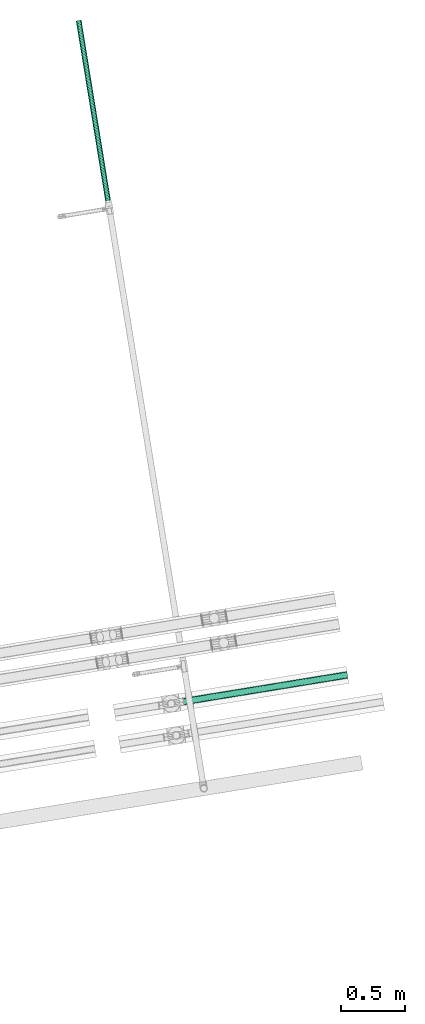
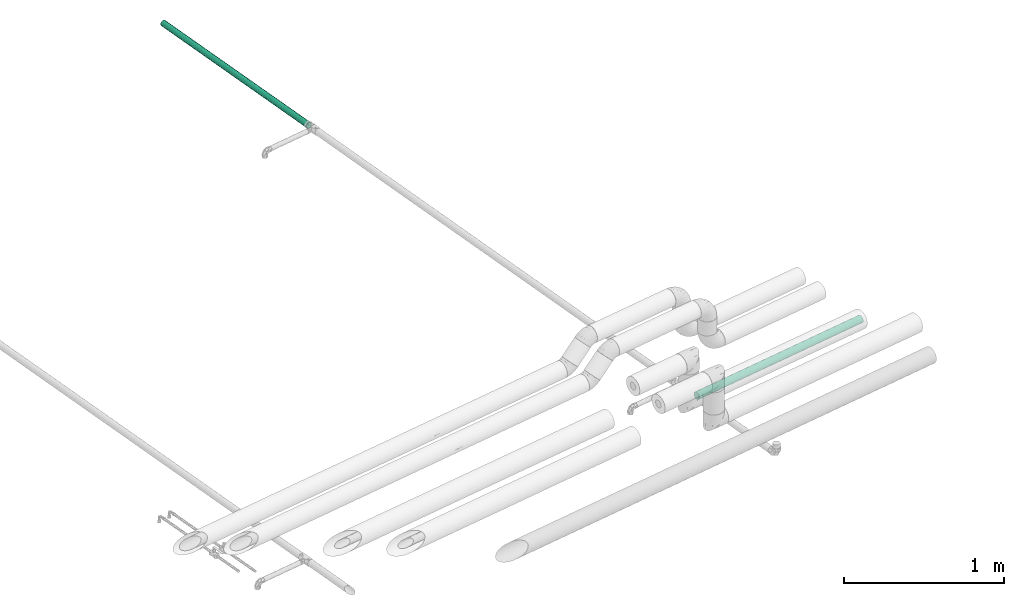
# One storey, part 53 of 56: 2 flow segments.
"""IFC2X3 building model written with IfcOpenShell, lengths in millimetres."""

from ifc_helpers import new_model, entity, si_unit, converted_unit, derived_unit, direction, frame, origin, origin_with_axes, place, context, subcontext, project, spatial, faceted_brep, material, type_object, element, save


model = new_model("IFC2X3")

# Units and contexts
model_context = context("Model", 3, precision=0.01, world=origin(), true_north=direction((6.12323399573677e-17, 1.0)))
plan_context = context("Plan", 3, precision=1e-05, world=origin_with_axes())
body_context = subcontext(model_context, "Body", "Model", "MODEL_VIEW")
ifc_project = project(units=[converted_unit("PLANEANGLEUNIT", "DEGREE", entity("IfcPositiveLengthMeasure", 0.0174532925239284), si_unit("PLANEANGLEUNIT", "RADIAN"), dimensions=[0, 0, 0, 0, 0, 0, 0]), si_unit("AREAUNIT", "SQUARE_METRE"), si_unit("LENGTHUNIT", "METRE", prefix="MILLI"), si_unit("MASSUNIT", "GRAM", prefix="KILO"), si_unit("POWERUNIT", "WATT"), si_unit("PRESSUREUNIT", "PASCAL", prefix="KILO"), si_unit("FORCEUNIT", "NEWTON", prefix="KILO"), si_unit("ELECTRICVOLTAGEUNIT", "VOLT"), si_unit("ELECTRICCURRENTUNIT", "AMPERE"), si_unit("THERMODYNAMICTEMPERATUREUNIT", "DEGREE_CELSIUS"), si_unit("TIMEUNIT", "SECOND"), si_unit("VOLUMEUNIT", "CUBIC_METRE"), derived_unit("LINEARVELOCITYUNIT", [(si_unit("LENGTHUNIT", "METRE"), 1), (si_unit("TIMEUNIT", "SECOND"), -1)]), derived_unit("VOLUMETRICFLOWRATEUNIT", [(si_unit("VOLUMEUNIT", "CUBIC_METRE"), 1), (si_unit("TIMEUNIT", "SECOND"), -1)]), derived_unit("THERMALTRANSMITTANCEUNIT", [(si_unit("POWERUNIT", "WATT"), 1), (si_unit("THERMODYNAMICTEMPERATUREUNIT", "KELVIN"), -1), (si_unit("AREAUNIT", "SQUARE_METRE"), -1)]), derived_unit("SOUNDPRESSUREUNIT", [(si_unit("PRESSUREUNIT", "PASCAL"), 1)])], contexts=[model_context, plan_context])

# Site, building, storey
site_placement = place(None, frame((-3.09682673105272e-06, 1.93776733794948e-05, 0.0), z_axis=(0.0, 0.0, 1.0), x_axis=(-0.160806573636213, 0.986985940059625, 0.0)))
site = spatial("IfcSite", under=ifc_project, at=site_placement, Name="Default", CompositionType="ELEMENT")
building_placement = place(site_placement, frame((0.0, 0.0, 0.0), z_axis=(0.0, 0.0, 1.0), x_axis=(1.0, -2.77555756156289e-17, 0.0)))
building = spatial("IfcBuilding", under=site, at=building_placement, Name="Bygning (endres i Project Information)", CompositionType="ELEMENT")
storey_placement = place(building_placement, frame((0.0, 0.0, 51360.0000000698), z_axis=(0.0, 0.0, 1.0), x_axis=(1.0, -2.77555756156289e-17, 0.0)))
storey = spatial("IfcBuildingStorey", under=building, at=storey_placement, Name="H01-Nivå D+0,36", CompositionType="ELEMENT", Elevation=51360.0000000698)

# Flow segments
ifc_material_1 = material(Name="3320.001")
pipe_segment_type_1 = type_object("IfcPipeSegmentType", Name="Pipe Types:Stålrør sveist og gjenget", PredefinedType="NOTDEFINED", material=ifc_material_1)
flow_segment_1_placement = place(storey_placement, frame((0.0, 0.0, 0.0), z_axis=(0.0, 0.0, 1.0), x_axis=(1.0, -2.77555756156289e-17, 0.0)))
element("IfcFlowSegment", 1, at=flow_segment_1_placement, inside=storey, type_object=pipe_segment_type_1, Name="Pipe Types:Stålrør sveist og gjenget", ObjectType="Pipe Types:Stålrør sveist og gjenget", context=body_context, shape_type="Brep", body=[
    faceted_brep([(1016638.36762345, -395316.02718765, 3196.31865849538), (1016638.36762345, -395315.705112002, 3200.0), (1015201.53557438, -395315.705112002, 3200.0), (1015201.53557438, -395316.02718765, 3196.31865849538), (1016638.36762345, -395316.02718765, 3203.68134150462), (1015201.53557438, -395316.02718765, 3203.68134150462), (1016638.36762345, -395316.983628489, 3207.25082731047), (1015201.53557438, -395316.983628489, 3207.25082731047), (1016638.36762345, -395318.545373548, 3210.60000039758), (1015201.53557438, -395318.545373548, 3210.60000039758), (1016638.36762345, -395320.664969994, 3213.62709783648), (1015201.53557438, -395320.664969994, 3213.62709783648), (1016638.36762345, -395323.278014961, 3216.24014280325), (1015201.53557438, -395323.278014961, 3216.24014280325), (1016638.36762345, -395326.3051124, 3218.35973924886), (1015201.53557438, -395326.3051124, 3218.35973924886), (1016638.36762345, -395329.654285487, 3219.92148430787), (1015201.53557438, -395329.654285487, 3219.92148430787), (1016638.36762345, -395333.223771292, 3220.87792514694), (1015201.53557438, -395333.223771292, 3220.87792514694), (1016638.36762345, -395336.905112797, 3221.20000079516), (1015201.53557438, -395336.905112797, 3221.20000079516), (1016638.36762345, -395340.586454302, 3220.87792514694), (1015201.53557438, -395340.586454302, 3220.87792514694), (1016638.36762345, -395344.155940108, 3219.92148430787), (1015201.53557438, -395344.155940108, 3219.92148430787), (1016638.36762345, -395347.505113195, 3218.35973924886), (1015201.53557438, -395347.505113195, 3218.35973924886), (1016638.36762345, -395350.532210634, 3216.24014280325), (1015201.53557438, -395350.532210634, 3216.24014280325), (1016638.36762345, -395353.1452556, 3213.62709783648), (1015201.53557438, -395353.1452556, 3213.62709783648), (1016638.36762345, -395355.264852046, 3210.60000039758), (1015201.53557438, -395355.264852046, 3210.60000039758), (1016638.36762345, -395356.826597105, 3207.25082731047), (1015201.53557438, -395356.826597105, 3207.25082731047), (1016638.36762345, -395357.783037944, 3203.68134150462), (1015201.53557438, -395357.783037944, 3203.68134150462), (1016638.36762345, -395358.105113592, 3200.0), (1015201.53557438, -395358.105113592, 3200.0), (1016638.36762345, -395357.783037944, 3196.31865849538), (1015201.53557438, -395357.783037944, 3196.31865849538), (1016638.36762345, -395356.826597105, 3192.74917268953), (1015201.53557438, -395356.826597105, 3192.74917268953), (1016638.36762345, -395355.264852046, 3189.39999960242), (1015201.53557438, -395355.264852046, 3189.39999960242), (1016638.36762345, -395353.1452556, 3186.37290216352), (1015201.53557438, -395353.1452556, 3186.37290216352), (1016638.36762345, -395350.532210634, 3183.75985719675), (1015201.53557438, -395350.532210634, 3183.75985719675), (1016638.36762345, -395347.505113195, 3181.64026075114), (1015201.53557438, -395347.505113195, 3181.64026075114), (1016638.36762345, -395344.155940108, 3180.07851569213), (1015201.53557438, -395344.155940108, 3180.07851569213), (1016638.36762345, -395340.586454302, 3179.12207485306), (1015201.53557438, -395340.586454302, 3179.12207485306), (1016638.36762345, -395336.905112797, 3178.79999920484), (1015201.53557438, -395336.905112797, 3178.79999920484), (1016638.36762345, -395333.223771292, 3179.12207485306), (1015201.53557438, -395333.223771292, 3179.12207485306), (1016638.36762345, -395329.654285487, 3180.07851569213), (1015201.53557438, -395329.654285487, 3180.07851569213), (1016638.36762345, -395326.3051124, 3181.64026075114), (1015201.53557438, -395326.3051124, 3181.64026075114), (1016638.36762345, -395323.278014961, 3183.75985719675), (1015201.53557438, -395323.278014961, 3183.75985719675), (1016638.36762345, -395320.664969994, 3186.37290216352), (1015201.53557438, -395320.664969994, 3186.37290216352), (1016638.36762345, -395318.545373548, 3189.39999960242), (1015201.53557438, -395318.545373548, 3189.39999960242), (1016638.36762345, -395316.983628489, 3192.74917268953), (1015201.53557438, -395316.983628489, 3192.74917268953)], [[[0, 1, 2, 3]], [[1, 4, 5, 2]], [[4, 6, 7, 5]], [[6, 8, 9, 7]], [[8, 10, 11, 9]], [[10, 12, 13, 11]], [[12, 14, 15, 13]], [[14, 16, 17, 15]], [[16, 18, 19, 17]], [[18, 20, 21, 19]], [[20, 22, 23, 21]], [[22, 24, 25, 23]], [[24, 26, 27, 25]], [[26, 28, 29, 27]], [[28, 30, 31, 29]], [[30, 32, 33, 31]], [[32, 34, 35, 33]], [[34, 36, 37, 35]], [[36, 38, 39, 37]], [[38, 40, 41, 39]], [[40, 42, 43, 41]], [[42, 44, 45, 43]], [[44, 46, 47, 45]], [[46, 48, 49, 47]], [[48, 50, 51, 49]], [[50, 52, 53, 51]], [[52, 54, 55, 53]], [[54, 56, 57, 55]], [[56, 58, 59, 57]], [[58, 60, 61, 59]], [[60, 62, 63, 61]], [[62, 64, 65, 63]], [[64, 66, 67, 65]], [[66, 68, 69, 67]], [[68, 70, 71, 69]], [[70, 0, 3, 71]], [[3, 2, 5, 7, 9, 11, 13, 15, 17, 19, 21, 23, 25, 27, 29, 31, 33, 35, 37, 39, 41, 43, 45, 47, 49, 51, 53, 55, 57, 59, 61, 63, 65, 67, 69, 71]], [[70, 68, 66, 64, 62, 60, 58, 56, 54, 52, 50, 48, 46, 44, 42, 40, 38, 36, 34, 32, 30, 28, 26, 24, 22, 20, 18, 16, 14, 12, 10, 8, 6, 4, 1, 0]]], orient=[[False], [False], [False], [False], [False], [False], [False], [False], [False], [False], [False], [False], [False], [False], [False], [False], [False], [False], [False], [False], [False], [False], [False], [False], [False], [False], [False], [False], [False], [False], [False], [False], [False], [False], [False], [False], [False], [False]]),
])
ifc_material_2 = material(Name="3200.005 Tur")
pipe_segment_type_2 = type_object("IfcPipeSegmentType", Name="Pipe Types:Pressfittingssystem MM", PredefinedType="NOTDEFINED", material=ifc_material_2)
flow_segment_2_placement = place(storey_placement, frame((0.0, 0.0, 0.0), z_axis=(0.0, 0.0, 1.0), x_axis=(1.0, -2.77555756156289e-17, 0.0)))
element("IfcFlowSegment", 2, at=flow_segment_2_placement, inside=storey, type_object=pipe_segment_type_2, Name="Pipe Types:Pressfittingssystem MM", ObjectType="Pipe Types:Pressfittingssystem MM", context=body_context, shape_type="Brep", body=[
    faceted_brep([(1011261.40480841, -396579.084056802, 3300.0), (1011261.81499908, -396579.084056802, 3295.31149919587), (1011261.81499908, -395258.225267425, 3295.31149919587), (1011261.40480841, -395258.225267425, 3300.0), (1011261.81499908, -396579.084056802, 3304.68850080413), (1011261.81499908, -395258.225267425, 3304.68850080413), (1011263.03310765, -396579.084056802, 3309.23454388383), (1011263.03310765, -395258.225267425, 3309.23454388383), (1011265.02212251, -396579.084056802, 3313.50000002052), (1011265.02212251, -395258.225267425, 3313.50000002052), (1011267.72160846, -396579.084056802, 3317.35526548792), (1011267.72160846, -395258.225267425, 3317.35526548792), (1011271.04954296, -396579.084056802, 3320.68319999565), (1011271.04954296, -395258.225267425, 3320.68319999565), (1011274.90480843, -396579.084056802, 3323.38268593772), (1011274.90480843, -395258.225267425, 3323.38268593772), (1011279.17026457, -396579.084056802, 3325.37170079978), (1011279.17026457, -395258.225267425, 3325.37170079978), (1011283.71630765, -396579.084056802, 3326.58980937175), (1011283.71630765, -395258.225267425, 3326.58980937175), (1011288.40480845, -396579.084056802, 3327.00000004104), (1011288.40480845, -395258.225267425, 3327.00000004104), (1011293.09330926, -396579.084056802, 3326.58980937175), (1011293.09330925, -395258.225267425, 3326.58980937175), (1011297.63935233, -396579.084056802, 3325.37170079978), (1011297.63935233, -395258.225267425, 3325.37170079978), (1011301.90480847, -396579.084056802, 3323.38268593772), (1011301.90480847, -395258.225267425, 3323.38268593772), (1011305.76007394, -396579.084056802, 3320.68319999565), (1011305.76007394, -395258.225267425, 3320.68319999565), (1011309.08800845, -396579.084056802, 3317.35526548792), (1011309.08800845, -395258.225267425, 3317.35526548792), (1011311.78749439, -396579.084056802, 3313.50000002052), (1011311.78749439, -395258.225267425, 3313.50000002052), (1011313.77650925, -396579.084056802, 3309.23454388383), (1011313.77650925, -395258.225267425, 3309.23454388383), (1011314.99461782, -396579.084056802, 3304.68850080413), (1011314.99461782, -395258.225267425, 3304.68850080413), (1011315.40480849, -396579.084056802, 3300.0), (1011315.40480849, -395258.225267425, 3300.0), (1011314.99461782, -396579.084056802, 3295.31149919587), (1011314.99461782, -395258.225267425, 3295.31149919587), (1011313.77650925, -396579.084056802, 3290.76545611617), (1011313.77650925, -395258.225267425, 3290.76545611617), (1011311.78749439, -396579.084056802, 3286.49999997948), (1011311.78749439, -395258.225267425, 3286.49999997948), (1011309.08800845, -396579.084056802, 3282.64473451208), (1011309.08800845, -395258.225267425, 3282.64473451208), (1011305.76007394, -396579.084056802, 3279.31680000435), (1011305.76007394, -395258.225267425, 3279.31680000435), (1011301.90480847, -396579.084056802, 3276.61731406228), (1011301.90480847, -395258.225267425, 3276.61731406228), (1011297.63935233, -396579.084056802, 3274.62829920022), (1011297.63935233, -395258.225267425, 3274.62829920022), (1011293.09330926, -396579.084056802, 3273.41019062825), (1011293.09330925, -395258.225267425, 3273.41019062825), (1011288.40480845, -396579.084056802, 3272.99999995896), (1011288.40480845, -395258.225267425, 3272.99999995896), (1011283.71630765, -396579.084056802, 3273.41019062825), (1011283.71630765, -395258.225267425, 3273.41019062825), (1011279.17026457, -396579.084056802, 3274.62829920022), (1011279.17026457, -395258.225267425, 3274.62829920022), (1011274.90480843, -396579.084056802, 3276.61731406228), (1011274.90480843, -395258.225267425, 3276.61731406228), (1011271.04954296, -396579.084056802, 3279.31680000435), (1011271.04954296, -395258.225267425, 3279.31680000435), (1011267.72160846, -396579.084056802, 3282.64473451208), (1011267.72160846, -395258.225267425, 3282.64473451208), (1011265.02212251, -396579.084056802, 3286.49999997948), (1011265.02212251, -395258.225267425, 3286.49999997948), (1011263.03310765, -396579.084056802, 3290.76545611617), (1011263.03310765, -395258.225267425, 3290.76545611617)], [[[0, 1, 2, 3]], [[4, 0, 3, 5]], [[6, 4, 5, 7]], [[8, 6, 7, 9]], [[10, 8, 9, 11]], [[12, 10, 11, 13]], [[14, 12, 13, 15]], [[16, 14, 15, 17]], [[18, 16, 17, 19]], [[20, 18, 19, 21]], [[22, 20, 21, 23]], [[24, 22, 23, 25]], [[26, 24, 25, 27]], [[28, 26, 27, 29]], [[30, 28, 29, 31]], [[32, 30, 31, 33]], [[34, 32, 33, 35]], [[36, 34, 35, 37]], [[38, 36, 37, 39]], [[40, 38, 39, 41]], [[42, 40, 41, 43]], [[44, 42, 43, 45]], [[46, 44, 45, 47]], [[48, 46, 47, 49]], [[50, 48, 49, 51]], [[52, 50, 51, 53]], [[54, 52, 53, 55]], [[56, 54, 55, 57]], [[58, 56, 57, 59]], [[60, 58, 59, 61]], [[62, 60, 61, 63]], [[64, 62, 63, 65]], [[66, 64, 65, 67]], [[68, 66, 67, 69]], [[70, 68, 69, 71]], [[1, 70, 71, 2]], [[3, 2, 71, 69, 67, 65, 63, 61, 59, 57, 55, 53, 51, 49, 47, 45, 43, 41, 39, 37, 35, 33, 31, 29, 27, 25, 23, 21, 19, 17, 15, 13, 11, 9, 7, 5]], [[4, 6, 8, 10, 12, 14, 16, 18, 20, 22, 24, 26, 28, 30, 32, 34, 36, 38, 40, 42, 44, 46, 48, 50, 52, 54, 56, 58, 60, 62, 64, 66, 68, 70, 1, 0]]], orient=[[False], [False], [False], [False], [False], [False], [False], [False], [False], [False], [False], [False], [False], [False], [False], [False], [False], [False], [False], [False], [False], [False], [False], [False], [False], [False], [False], [False], [False], [False], [False], [False], [False], [False], [False], [False], [False], [False]]),
])

save(model, "model.ifc")
